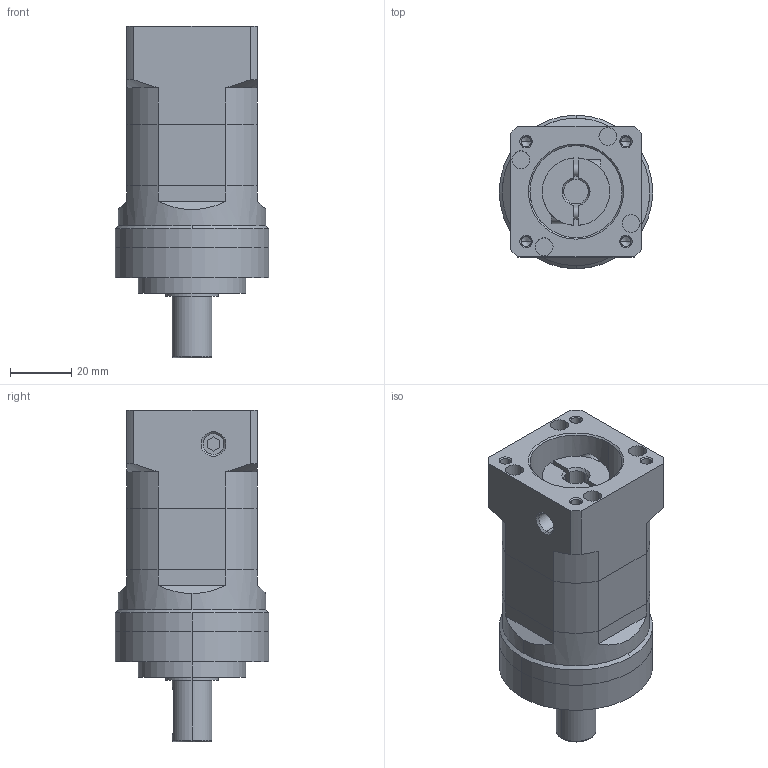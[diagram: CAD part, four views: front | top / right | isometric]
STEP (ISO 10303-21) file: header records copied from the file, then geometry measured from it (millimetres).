
FILE_DESCRIPTION (( 'STEP AP214' ), '1' );
FILE_NAME ('VRL050-L2-S2-P1 8-30-46-M4.STEP', '2021-04-24T07:19:53', ( 'User' ), ( 'china' ), 'SwSTEP 2.0', 'SolidWorks 2016', '' );
FILE_SCHEMA (( 'AUTOMOTIVE_DESIGN' ));
Length unit declared in the file: millimetre
Products named in the file (5): VRL50-双级齿圈; VRL50-怀堤傷-13粣; VRL42-输入法兰-8-25-30-M4-46; VRL050-L2-S2-P1 8-30-46-M4; VRL50-单级齿圈
Assembly tree (4 placements, depth 2):
  VRL050-L2-S2-P1 8-30-46-M4
    VRL50-怀堤傷-13粣
    VRL50-单级齿圈
    VRL50-双级齿圈
    VRL42-输入法兰-8-25-30-M4-46
Bounding box: 50 x 50 x 108 mm (x, y, z)
Volume: 139128.6 mm3; surface area: 35063.1 mm2
Topology: 4 solids, 4 shells, 242 faces, 582 edges, 370 vertices
Faces by surface type: plane 103, cylinder 94, cone 43, bspline 2
Entity records: 7487 total; most frequent: CARTESIAN_POINT 1536, DIRECTION 1261, ORIENTED_EDGE 1144, EDGE_CURVE 572, AXIS2_PLACEMENT_3D 473, VERTEX_POINT 370, LINE 315, VECTOR 315
